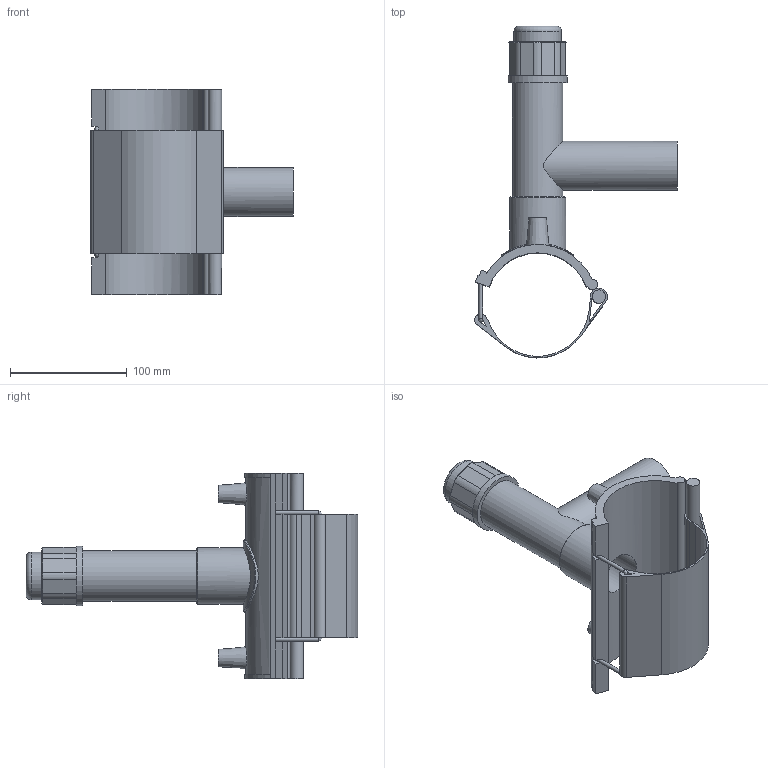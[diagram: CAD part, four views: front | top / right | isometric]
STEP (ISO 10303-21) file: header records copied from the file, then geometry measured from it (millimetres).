
FILE_DESCRIPTION(/* description */ ('PLASSON TAPPING SADDLE 3''''IPS x 1 1/4''''IPS'),/* implementation_level */ '2;1');
FILE_NAME(/* name */ 'C:\Dropbox\KIMPROJECTS-Inventor 2019\99-16-3568-Processing Inch\ASTM ElectroFusion 2021\5913B\5913BB03030013.ipt.stp',/* time_stamp */ '2021-08-30T09:50:22+03:00',/* author */ ('KIM'),/* organization */ (''),/* preprocessor_version */ 'ST-DEVELOPER v17.2',/* originating_system */ 'Autodesk Inventor 2019',/* authorisation */ '');
FILE_SCHEMA (('AUTOMOTIVE_DESIGN { 1 0 10303 214 3 1 1 }'));
Length unit declared in the file: millimetre
Products named in the file (1): 5913BB03030013
Bounding box: 173.98 x 284.84 x 176.02 mm (x, y, z)
Volume: 428447.9 mm3; surface area: 168705 mm2
Topology: 1 solids, 1 shells, 126 faces, 333 edges, 210 vertices
Faces by surface type: plane 69, cylinder 42, cone 11, bspline 3, torus 1
Full cylindrical faces by diameter (mm): 3.193 x2, 4 x2, 10 x2, 11.531 x1, 33.68 x1, 35.64 x1, 40.731 x1, 42.1 x1, 43.277 x1, 48.368 x1, 50.914 x1, 62.09 x1
Entity records: 4574 total; most frequent: CARTESIAN_POINT 1338, DIRECTION 678, ORIENTED_EDGE 664, EDGE_CURVE 332, AXIS2_PLACEMENT_3D 245, VERTEX_POINT 210, LINE 188, VECTOR 188
